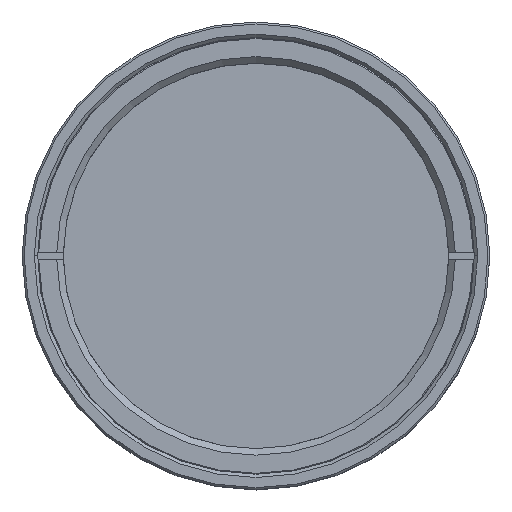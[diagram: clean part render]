
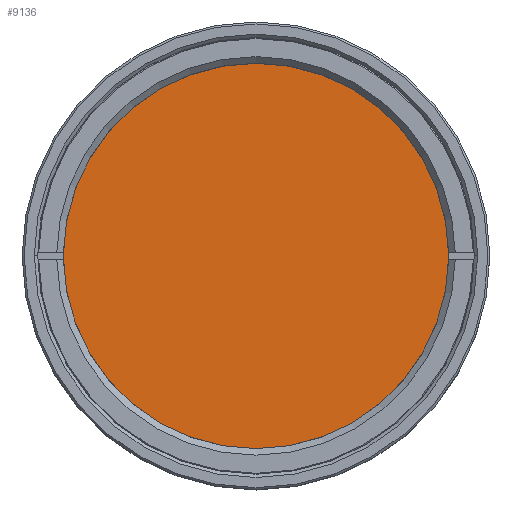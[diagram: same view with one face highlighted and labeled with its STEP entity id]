
A CAD part, top view. The second image highlights one B-rep face of the part: STEP entity #9136.
In plain terms, the highlighted planar face has unit normal (0, 0, 1).
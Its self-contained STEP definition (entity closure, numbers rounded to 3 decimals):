
#194 = VERTEX_POINT ( 'NONE', #13838 ) ;
#987 = AXIS2_PLACEMENT_3D ( 'NONE', #7116, #19024, #8816 ) ;
#1630 = PLANE ( 'NONE',  #13325 ) ;
#3344 = DIRECTION ( 'NONE',  ( -1., 0., 0. ) ) ;
#4142 = DIRECTION ( 'NONE',  ( 0., 0., -1. ) ) ;
#4770 = EDGE_LOOP ( 'NONE', ( #9798, #9844 ) ) ;
#5601 = CARTESIAN_POINT ( 'NONE',  ( 29.35, 0., 82.517 ) ) ;
#7116 = CARTESIAN_POINT ( 'NONE',  ( 0., 0., 82.517 ) ) ;
#8386 = CARTESIAN_POINT ( 'NONE',  ( 0., 0., 82.517 ) ) ;
#8816 = DIRECTION ( 'NONE',  ( -1., 0., 0. ) ) ;
#9032 = CIRCLE ( 'NONE', #11001, 29.35 ) ;
#9136 = ADVANCED_FACE ( 'NONE', ( #19113 ), #1630, .F. ) ;
#9798 = ORIENTED_EDGE ( 'NONE', *, *, #22005, .F. ) ;
#9844 = ORIENTED_EDGE ( 'NONE', *, *, #11328, .F. ) ;
#11001 = AXIS2_PLACEMENT_3D ( 'NONE', #14321, #4142, #16023 ) ;
#11328 = EDGE_CURVE ( 'NONE', #17346, #194, #18552, .T. ) ;
#13325 = AXIS2_PLACEMENT_3D ( 'NONE', #8386, #13511, #3344 ) ;
#13511 = DIRECTION ( 'NONE',  ( 0., 0., -1. ) ) ;
#13838 = CARTESIAN_POINT ( 'NONE',  ( -29.35, 0., 82.517 ) ) ;
#14321 = CARTESIAN_POINT ( 'NONE',  ( 0., 0., 82.517 ) ) ;
#16023 = DIRECTION ( 'NONE',  ( -1., 0., 0. ) ) ;
#17346 = VERTEX_POINT ( 'NONE', #5601 ) ;
#18552 = CIRCLE ( 'NONE', #987, 29.35 ) ;
#19024 = DIRECTION ( 'NONE',  ( 0., 0., -1. ) ) ;
#19113 = FACE_OUTER_BOUND ( 'NONE', #4770, .T. ) ;
#22005 = EDGE_CURVE ( 'NONE', #194, #17346, #9032, .T. ) ;
